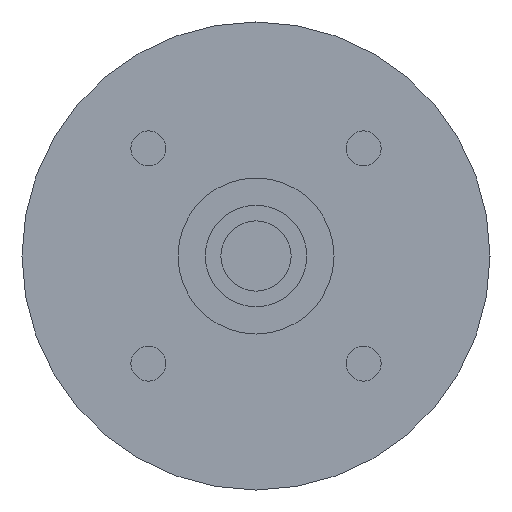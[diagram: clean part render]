
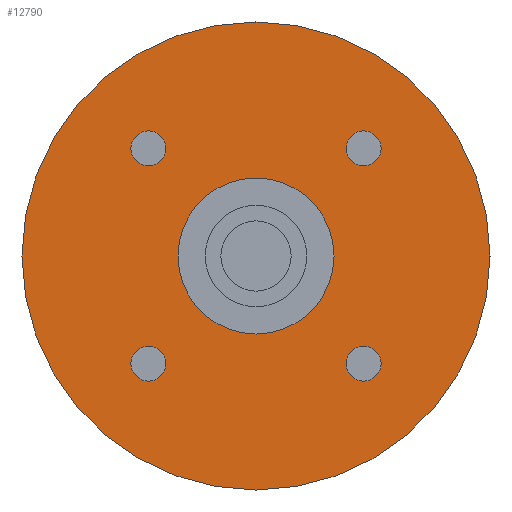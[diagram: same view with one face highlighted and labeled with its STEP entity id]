
A CAD part, left-side view. The second image highlights one B-rep face of the part: STEP entity #12790.
In plain terms, the highlighted planar face has unit normal (-1, 0, 0) as drawn and (0, 0, -1) by its records, which use the part's own axes.
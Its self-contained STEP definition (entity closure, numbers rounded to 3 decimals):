
#8680=CARTESIAN_POINT('',(-30.,0.,-35.));
#8690=VERTEX_POINT('',#8680);
#8910=CARTESIAN_POINT('',(30.,0.,-35.));
#8920=VERTEX_POINT('',#8910);
#8950=CARTESIAN_POINT('',(0.,0.,-35.
));
#8960=DIRECTION('',(0.,0.,1.));
#8970=DIRECTION('',(1.,0.,0.));
#8980=AXIS2_PLACEMENT_3D('',#8950,#8960,#8970);
#8990=CIRCLE('',#8980,30.);
#9000=CARTESIAN_POINT('',(0.,-30.,-35.));
#9010=VERTEX_POINT('',#9000);
#9020=EDGE_CURVE('',#9010,#8920,#8990,.T.);
#9040=EDGE_CURVE('',#8690,#9010,#8990,.T.);
#11760=CARTESIAN_POINT('',(-13.789,-11.539,-35.));
#11770=VERTEX_POINT('',#11760);
#11800=CARTESIAN_POINT('',(-13.789,-13.789,-35.));
#11810=DIRECTION('',(0.,0.,-1.));
#11820=DIRECTION('',(0.,-1.,0.));
#11830=AXIS2_PLACEMENT_3D('',#11800,#11810,#11820);
#11840=CIRCLE('',#11830,2.25);
#11850=CARTESIAN_POINT('',(-13.789,-16.039,-35.));
#11860=VERTEX_POINT('',#11850);
#11870=EDGE_CURVE('',#11860,#11770,#11840,.T.);
#11990=CARTESIAN_POINT('',(0.,0.,
-35.));
#12000=DIRECTION('',(0.,0.,-1.));
#12010=DIRECTION('',(1.,0.,0.));
#12020=AXIS2_PLACEMENT_3D('',#11990,#12000,#12010);
#12030=PLANE('',#12020);
#12040=CARTESIAN_POINT('',(13.789,13.789,-35.));
#12050=DIRECTION('',(0.,0.,-1.));
#12060=DIRECTION('',(0.,1.,0.));
#12070=AXIS2_PLACEMENT_3D('',#12040,#12050,#12060);
#12080=CIRCLE('',#12070,2.25);
#12090=CARTESIAN_POINT('',(13.789,16.039,-35.));
#12100=VERTEX_POINT('',#12090);
#12110=CARTESIAN_POINT('',(13.789,11.539,-35.));
#12120=VERTEX_POINT('',#12110);
#12130=EDGE_CURVE('',#12100,#12120,#12080,.T.);
#12140=ORIENTED_EDGE('',*,*,#12130,.F.);
#12150=EDGE_CURVE('',#12120,#12100,#12080,.T.);
#12160=ORIENTED_EDGE('',*,*,#12150,.F.);
#12170=EDGE_LOOP('',(#12160,#12140));
#12180=FACE_BOUND('',#12170,.T.);
#12190=CARTESIAN_POINT('',(-13.789,13.789,-35.));
#12200=DIRECTION('',(0.,0.,-1.));
#12210=DIRECTION('',(-1.,0.,0.));
#12220=AXIS2_PLACEMENT_3D('',#12190,#12200,#12210);
#12230=CIRCLE('',#12220,2.25);
#12240=CARTESIAN_POINT('',(-16.039,13.789,-35.));
#12250=VERTEX_POINT('',#12240);
#12260=CARTESIAN_POINT('',(-11.539,13.789,-35.));
#12270=VERTEX_POINT('',#12260);
#12280=EDGE_CURVE('',#12250,#12270,#12230,.T.);
#12290=ORIENTED_EDGE('',*,*,#12280,.F.);
#12300=EDGE_CURVE('',#12270,#12250,#12230,.T.);
#12310=ORIENTED_EDGE('',*,*,#12300,.F.);
#12320=EDGE_LOOP('',(#12310,#12290));
#12330=FACE_BOUND('',#12320,.T.);
#12340=ORIENTED_EDGE('',*,*,#11870,.F.);
#12350=EDGE_CURVE('',#11770,#11860,#11840,.T.);
#12360=ORIENTED_EDGE('',*,*,#12350,.F.);
#12370=EDGE_LOOP('',(#12360,#12340));
#12380=FACE_BOUND('',#12370,.T.);
#12390=CARTESIAN_POINT('',(0.,0.,
-35.));
#12400=DIRECTION('',(0.,0.,1.));
#12410=DIRECTION('',(0.,1.,0.));
#12420=AXIS2_PLACEMENT_3D('',#12390,#12400,#12410);
#12430=CIRCLE('',#12420,10.);
#12440=CARTESIAN_POINT('',(-10.,0.,-35.));
#12450=VERTEX_POINT('',#12440);
#12460=CARTESIAN_POINT('',(10.,0.,-35.));
#12470=VERTEX_POINT('',#12460);
#12480=EDGE_CURVE('',#12450,#12470,#12430,.T.);
#12490=ORIENTED_EDGE('',*,*,#12480,.T.);
#12500=CARTESIAN_POINT('',(0.,10.,-35.))
;
#12510=VERTEX_POINT('',#12500);
#12520=EDGE_CURVE('',#12510,#12450,#12430,.T.);
#12530=ORIENTED_EDGE('',*,*,#12520,.T.);
#12540=EDGE_CURVE('',#12470,#12510,#12430,.T.);
#12550=ORIENTED_EDGE('',*,*,#12540,.T.);
#12560=EDGE_LOOP('',(#12550,#12530,#12490));
#12570=FACE_BOUND('',#12560,.T.);
#12580=CARTESIAN_POINT('',(13.789,-13.789,-35.));
#12590=DIRECTION('',(0.,0.,-1.));
#12600=DIRECTION('',(1.,0.,0.));
#12610=AXIS2_PLACEMENT_3D('',#12580,#12590,#12600);
#12620=CIRCLE('',#12610,2.25);
#12630=CARTESIAN_POINT('',(16.039,-13.789,-35.));
#12640=VERTEX_POINT('',#12630);
#12650=CARTESIAN_POINT('',(11.539,-13.789,-35.));
#12660=VERTEX_POINT('',#12650);
#12670=EDGE_CURVE('',#12640,#12660,#12620,.T.);
#12680=ORIENTED_EDGE('',*,*,#12670,.F.);
#12690=EDGE_CURVE('',#12660,#12640,#12620,.T.);
#12700=ORIENTED_EDGE('',*,*,#12690,.F.);
#12710=EDGE_LOOP('',(#12700,#12680));
#12720=FACE_BOUND('',#12710,.T.);
#12730=ORIENTED_EDGE('',*,*,#9020,.F.);
#12740=EDGE_CURVE('',#8920,#8690,#8990,.T.);
#12750=ORIENTED_EDGE('',*,*,#12740,.F.);
#12760=ORIENTED_EDGE('',*,*,#9040,.F.);
#12770=EDGE_LOOP('',(#12760,#12750,#12730));
#12780=FACE_OUTER_BOUND('',#12770,.T.);
#12790=ADVANCED_FACE('',(#12180,#12330,#12380,#12570,#12720,#12780),
#12030,.T.);
